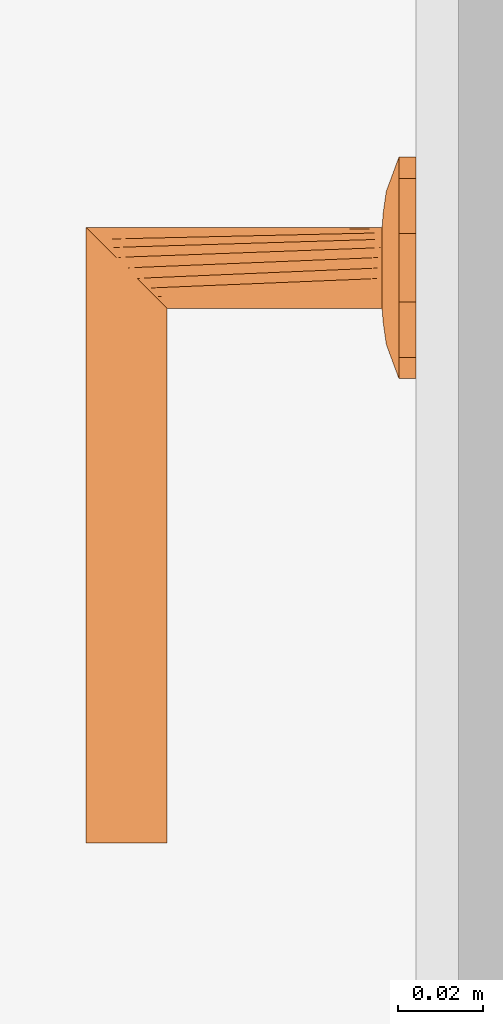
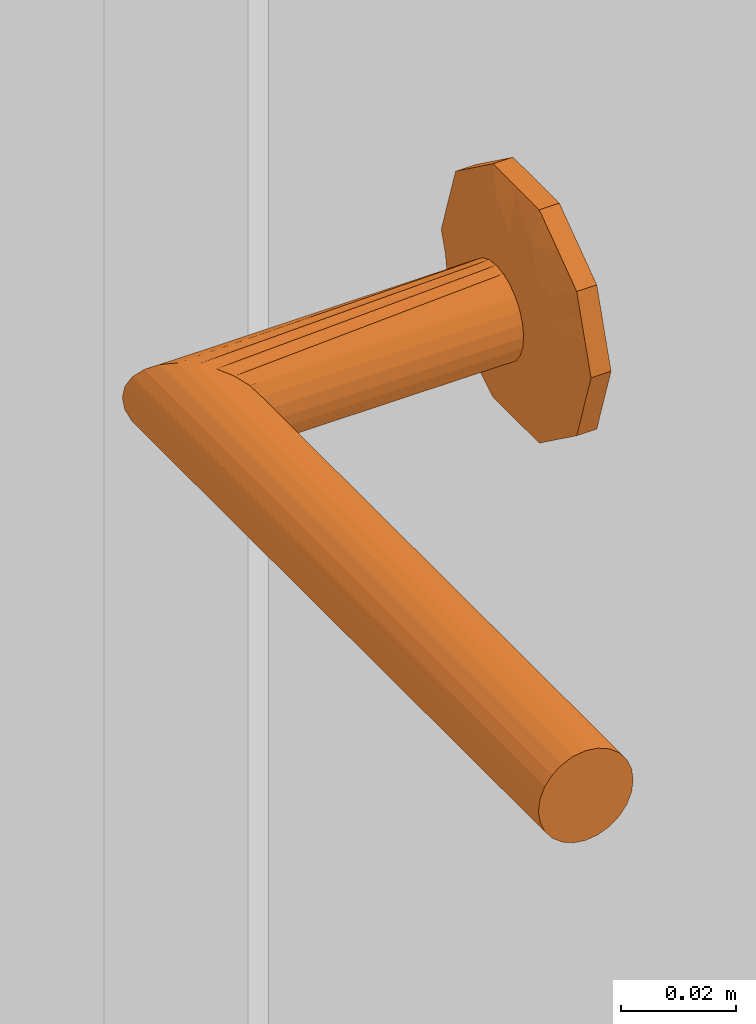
# One storey, part 58 of 68: 1 proxy.
"""IFC2X3 building model written with IfcOpenShell, lengths in millimetres."""

from ifc_helpers import new_model, entity, si_unit, converted_unit, direction, frame, origin, place, context, subcontext, project, spatial, faceted_brep, source, transform, mapped, material, type_object, type_shapes, element, save


model = new_model("IFC2X3")

# Units and contexts
model_context = context("Model", 3, precision=0.01, world=origin(), true_north=direction((6.123233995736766e-17, 1.0)))
plan_context = context("Plan", 3, precision=0.01, world=origin(), true_north=direction((6.123233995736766e-17, 1.0)))
body_context = subcontext(model_context, "Body", "Model", "MODEL_VIEW")
ifc_project = project(units=[si_unit("LENGTHUNIT", "METRE", prefix="MILLI"), converted_unit("PLANEANGLEUNIT", "DEGREE", entity("IfcPlaneAngleMeasure", 0.017453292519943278), si_unit("PLANEANGLEUNIT", "RADIAN"), dimensions=[0, 0, 0, 0, 0, 0, 0]), si_unit("AREAUNIT", "SQUARE_METRE")], contexts=[model_context, plan_context])

# Site, building, storey, space
site_placement = place(None, origin())
site = spatial("IfcSite", under=ifc_project, at=site_placement, Name="Default", CompositionType="ELEMENT")
building_placement = place(site_placement, origin())
building = spatial("IfcBuilding", under=site, at=building_placement, CompositionType="ELEMENT")
storey_placement = place(building_placement, frame((0.0, 0.0, 6295.0)))
storey = spatial("IfcBuildingStorey", under=building, at=storey_placement, Name="3K", CompositionType="ELEMENT", Elevation=6294.999999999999)
space_placement = place(storey_placement, origin())
space = spatial("IfcSpace", under=storey, at=space_placement, Name="3-8.3", CompositionType="ELEMENT", InteriorOrExteriorSpace="INTERNAL")

# Proxy
ifc_material = material(Name="<Unnamed>")
building_element_proxy_type = type_object("IfcBuildingElementProxyType", Name="Door-handle_Lever_ABLOY_INOXI_3-19ss-002_RT:Default", PredefinedType="NOTDEFINED", material=ifc_material)
shared_shape = source(origin(), body_context, "Body", "Brep", [
    faceted_brep([(0.0, 0.0, 0.0), (8.034441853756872, 24.72746942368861, 0.0), (14.534441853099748, 20.00494299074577, 0.0), (21.034441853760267, 15.282416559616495, 0.0), (23.51722092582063, 7.641208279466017, 0.0), (26.0, 0.0, 0.0), (23.517220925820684, -7.641208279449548, 0.0), (0.0, 24.72746942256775, 0.0), (-8.034441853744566, 24.727469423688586, 0.0), (-14.534441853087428, 20.00494299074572, 0.0), (-21.03444185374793, 15.282416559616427, 0.0), (-23.517220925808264, 7.641208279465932, 0.0), (-26.0, 0.0, 0.0), (21.034441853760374, -15.282416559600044, 0.0), (14.534441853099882, -20.004942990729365, 0.0), (8.034441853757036, -24.72746942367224, 0.0), (0.0, -24.72746942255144, 0.0), (-23.517220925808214, -7.641208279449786, 0.0), (-21.034441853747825, -15.282416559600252, 0.0), (-14.53444185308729, -20.004942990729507, 0.0), (-8.0344418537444, -24.72746942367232, 0.0), (0.0, 0.0, 8.0), (9.500000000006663, 0.0, 8.0), (8.312500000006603, 2.056810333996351, 8.0), (7.125000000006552, 4.113620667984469, 8.0), (5.937500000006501, 6.170431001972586, 8.0), (4.7500000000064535, 8.227241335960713, 8.0), (2.375000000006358, 8.2272413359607, 8.0), (0.0, 8.227241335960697, 8.0), (-2.3749999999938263, 8.227241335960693, 8.0), (-4.749999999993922, 8.227241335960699, 8.0), (-5.937499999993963, 6.1704310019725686, 8.0), (-7.124999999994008, 4.1136206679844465, 8.0), (-8.312499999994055, 2.0568103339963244, 8.0), (-9.499999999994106, 0.0, 8.0), (-8.31249999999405, -2.0568103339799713, 8.0), (8.312500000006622, -2.0568103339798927, 8.0), (7.125000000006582, -4.113620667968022, 8.0), (5.937500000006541, -6.170431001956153, 8.0), (4.750000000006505, -8.227241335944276, 8.0), (-7.124999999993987, -4.113620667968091, 8.0), (-5.9374999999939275, -6.17043100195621, 8.0), (-4.74999999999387, -8.227241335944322, 8.0), (-2.374999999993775, -8.227241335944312, 8.0), (0.0, -8.227241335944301, 8.0), (2.3750000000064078, -8.227241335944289, 8.0), (-20.6430713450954, 6.292822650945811, 5.929480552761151), (-16.663919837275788, 7.932665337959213, 6.877259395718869), (-22.48876527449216, 10.806469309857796, 4.030771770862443), (-16.764060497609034, 3.8202578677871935, 7.1747985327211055), (-12.504579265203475, 5.179566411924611, 7.774932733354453), (-11.979136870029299, 13.678312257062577, 6.945778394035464), (-11.963426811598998, 8.62529041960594, 7.618343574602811), (-9.07172672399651, 10.31160661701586, 7.7520782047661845), (8.03444185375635, 24.727469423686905, 4.030771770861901), (0.0, 24.72746942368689, 4.030771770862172), (5.758554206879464, 20.96753300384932, 5.871476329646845), (20.643071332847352, 6.292822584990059, 5.929480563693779), (22.488765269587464, 10.806469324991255, 4.03077177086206), (16.66391982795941, 7.9326653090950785, 6.877259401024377), (9.49943163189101, 18.6436835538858, 6.154325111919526), (14.534441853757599, 20.004942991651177, 4.030771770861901), (-14.534441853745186, 20.00494299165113, 4.030771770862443), (-21.034441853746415, 15.282416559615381, 4.030771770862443), (-15.783149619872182, 11.991003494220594, 6.50080018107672), (-23.943088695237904, 6.330522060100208, 4.030771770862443), (-23.012042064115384, 0.0, 5.135401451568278), (12.50457924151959, 5.179566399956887, 7.774932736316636), (11.963426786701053, 8.625290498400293, 7.618343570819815), (16.76406041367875, 3.820257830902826, 7.17479855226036), (15.783149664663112, 11.991003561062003, 6.50080015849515), (23.01204200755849, 0.0, 5.135401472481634), (17.9853516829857, 0.0, 6.993737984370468), (8.661516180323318, 10.478936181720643, 7.768126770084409), (-3.3573143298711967, 21.197247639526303, 5.971427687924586), (-8.03444185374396, 24.727469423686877, 4.030771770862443), (-7.711266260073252, 12.76034452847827, 7.594456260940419), (-5.97325794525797, 16.43013906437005, 7.110979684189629), (-9.94191586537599, 17.061976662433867, 6.522757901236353), (11.979136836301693, 13.678312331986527, 6.945778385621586), (5.953298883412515, 16.50608604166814, 7.096344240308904), (7.511307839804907, 13.358932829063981, 7.529187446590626), (-1.5654593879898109, 15.307443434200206, 7.519134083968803), (-7.784980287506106, 20.476295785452, 5.812837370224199), (2.8135289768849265, 17.763922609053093, 6.993737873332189), (-17.985351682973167, 0.0, 6.993737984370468), (-26.0, 0.0, 4.030771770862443), (-23.51722092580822, 7.641208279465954, 4.030771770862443), (26.0, 0.0, 4.030771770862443), (24.308823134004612, 5.204907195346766, 4.030771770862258), (23.943088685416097, 6.330522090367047, 4.030771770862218), (21.03444185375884, 15.282416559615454, 4.030771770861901), (22.617646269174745, 10.40981439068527, 4.030771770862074), (20.6430713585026, -6.292822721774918, 5.929480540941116), (16.663919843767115, -7.932665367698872, 6.877259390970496), (22.48876527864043, -10.8064692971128, 4.030771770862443), (16.764060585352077, -3.8202579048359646, 7.174798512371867), (12.504579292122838, -5.17956641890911, 7.774932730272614), (11.979136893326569, -13.678312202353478, 6.9457784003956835), (11.963426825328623, -8.62529034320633, 7.618343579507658), (9.071726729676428, -10.311606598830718, 7.752078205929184), (-8.03444185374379, -24.727469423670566, 4.030771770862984), (0.0, -24.727469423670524, 4.030771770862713), (-5.758554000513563, -20.96753314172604, 5.8714763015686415), (-20.643071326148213, -6.292822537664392, 5.929480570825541), (-22.488765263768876, -10.80646934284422, 4.030771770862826), (-16.66391981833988, -7.932665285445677, 6.877259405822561), (-9.499431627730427, -18.643683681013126, 6.154325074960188), (-14.534441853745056, -20.004942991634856, 4.030771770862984), (14.53444185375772, -20.00494299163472, 4.030771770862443), (21.034441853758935, -15.282416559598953, 4.030771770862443), (15.783149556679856, -11.991003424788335, 6.5008002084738), (23.943088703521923, -6.330522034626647, 4.030771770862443), (-12.504579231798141, -5.17956638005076, 7.77493273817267), (-11.963426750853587, -8.625290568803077, 7.618343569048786), (-16.764060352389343, -3.8202577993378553, 7.174798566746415), (-15.783149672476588, -11.991003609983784, 6.500800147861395), (-8.661516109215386, -10.478936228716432, 7.768126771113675), (3.3573144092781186, -21.197247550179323, 5.971427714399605), (8.034441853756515, -24.727469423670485, 4.030771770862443), (7.711266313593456, -12.760344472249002, 7.5944562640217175), (5.9732581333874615, -16.430139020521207, 7.110979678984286), (9.941915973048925, -17.06197655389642, 6.522757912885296), (-11.979136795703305, -13.678312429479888, 6.945778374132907), (-5.953298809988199, -16.506086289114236, 7.096344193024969), (-7.511307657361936, -13.358932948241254, 7.5291874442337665), (1.5654596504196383, -15.3074431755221, 7.519134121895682), (7.784980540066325, -20.476295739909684, 5.812837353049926), (-2.81352881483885, -17.76392263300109, 6.993737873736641), (23.517220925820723, -7.64120827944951, 4.030771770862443), (-24.308823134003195, -5.20490719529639, 4.030771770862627), (-23.943088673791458, -6.330522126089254, 4.030771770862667), (-21.034441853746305, -15.282416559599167, 4.030771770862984), (-22.617646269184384, -10.409814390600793, 4.0307717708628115)], [[[0, 1, 2]], [[0, 2, 3]], [[0, 3, 4]], [[0, 4, 5]], [[0, 5, 6]], [[0, 7, 1]], [[0, 8, 7]], [[0, 9, 8]], [[0, 10, 9]], [[0, 11, 10]], [[0, 12, 11]], [[0, 6, 13]], [[0, 13, 14]], [[0, 14, 15]], [[0, 15, 16]], [[0, 17, 12]], [[0, 18, 17]], [[0, 19, 18]], [[0, 20, 19]], [[0, 16, 20]], [[21, 22, 23]], [[21, 23, 24]], [[21, 24, 25]], [[21, 25, 26]], [[21, 26, 27]], [[21, 27, 28]], [[21, 28, 29]], [[21, 29, 30]], [[21, 30, 31]], [[21, 31, 32]], [[21, 32, 33]], [[21, 33, 34]], [[21, 34, 35]], [[21, 36, 22]], [[21, 37, 36]], [[21, 38, 37]], [[21, 39, 38]], [[21, 35, 40]], [[21, 40, 41]], [[21, 41, 42]], [[21, 42, 43]], [[21, 43, 44]], [[21, 44, 45]], [[21, 45, 39]], [[46, 47, 48]], [[49, 50, 47]], [[33, 32, 50]], [[51, 52, 53]], [[32, 52, 50]], [[49, 47, 46]], [[54, 55, 56]], [[57, 58, 59]], [[60, 61, 54]], [[62, 63, 64]], [[46, 65, 66]], [[67, 59, 68]], [[23, 69, 67]], [[70, 68, 59]], [[23, 22, 69]], [[52, 51, 64]], [[71, 69, 72]], [[73, 25, 68]], [[74, 55, 75]], [[76, 77, 78]], [[70, 61, 79]], [[71, 57, 69]], [[60, 80, 81]], [[51, 76, 78]], [[77, 29, 82]], [[26, 81, 27]], [[74, 83, 77]], [[77, 82, 74]], [[74, 84, 55]], [[34, 49, 85]], [[23, 67, 24]], [[28, 84, 82]], [[74, 82, 84]], [[29, 76, 30]], [[29, 28, 82]], [[49, 34, 33]], [[47, 50, 52]], [[47, 52, 64]], [[50, 49, 33]], [[53, 76, 51]], [[52, 32, 31]], [[49, 66, 85]], [[86, 66, 65]], [[24, 67, 68]], [[83, 78, 77]], [[49, 46, 66]], [[48, 64, 63]], [[46, 48, 87, 65]], [[48, 47, 64]], [[59, 67, 69]], [[26, 73, 81]], [[79, 68, 70]], [[25, 24, 68]], [[71, 88, 89, 90]], [[22, 72, 69]], [[59, 69, 57]], [[79, 61, 60]], [[51, 62, 64]], [[70, 58, 91]], [[90, 57, 71]], [[58, 70, 59]], [[57, 90, 92]], [[79, 60, 81]], [[61, 70, 91]], [[56, 80, 60]], [[79, 81, 73]], [[80, 84, 27]], [[79, 73, 68]], [[27, 84, 28]], [[25, 73, 26]], [[77, 76, 29]], [[31, 30, 53]], [[78, 62, 51]], [[75, 62, 83]], [[78, 83, 62]], [[75, 83, 74]], [[76, 53, 30]], [[31, 53, 52]], [[81, 80, 27]], [[84, 80, 56]], [[84, 56, 55]], [[54, 56, 60]], [[93, 94, 95]], [[96, 97, 94]], [[36, 37, 97]], [[98, 99, 100]], [[37, 99, 97]], [[96, 94, 93]], [[101, 102, 103]], [[104, 105, 106]], [[107, 108, 101]], [[109, 110, 111]], [[93, 112, 71]], [[113, 106, 114]], [[35, 115, 113]], [[116, 114, 106]], [[35, 34, 115]], [[99, 98, 111]], [[66, 115, 85]], [[117, 41, 114]], [[118, 102, 119]], [[120, 121, 122]], [[116, 108, 123]], [[66, 104, 115]], [[107, 124, 125]], [[120, 45, 121]], [[121, 45, 126]], [[42, 125, 43]], [[118, 127, 121]], [[121, 126, 118]], [[118, 128, 102]], [[22, 96, 72]], [[35, 113, 40]], [[44, 128, 126]], [[118, 126, 128]], [[45, 120, 39]], [[45, 44, 126]], [[96, 22, 36]], [[94, 97, 99]], [[94, 99, 111]], [[97, 96, 36]], [[100, 120, 98]], [[99, 37, 38]], [[96, 71, 72]], [[88, 71, 112]], [[40, 113, 114]], [[127, 122, 121]], [[96, 93, 71]], [[95, 111, 110]], [[93, 95, 129, 112]], [[95, 94, 111]], [[106, 113, 115]], [[42, 117, 125]], [[123, 114, 116]], [[41, 40, 114]], [[66, 86, 130, 131]], [[34, 85, 115]], [[106, 115, 104]], [[123, 108, 107]], [[98, 109, 111]], [[116, 105, 132]], [[131, 104, 66]], [[105, 116, 106]], [[104, 131, 133]], [[123, 107, 125]], [[108, 116, 132]], [[103, 124, 107]], [[123, 125, 117]], [[124, 128, 43]], [[123, 117, 114]], [[43, 128, 44]], [[41, 117, 42]], [[38, 39, 100]], [[98, 120, 122]], [[122, 109, 98]], [[119, 109, 127]], [[122, 127, 109]], [[119, 127, 118]], [[120, 100, 39]], [[38, 100, 99]], [[125, 124, 43]], [[128, 124, 103]], [[128, 103, 102]], [[101, 103, 107]], [[9, 10, 63, 62, 75, 8]], [[11, 12, 86, 65, 87, 48, 63, 10]], [[4, 3, 92, 90, 89, 88, 5]], [[3, 91, 58]], [[55, 54, 1, 7, 8, 75]], [[3, 2, 1, 54, 61, 91]], [[13, 6, 5, 88, 112, 129, 95, 110]], [[119, 15, 14, 13, 110, 109]], [[17, 18, 133, 131, 130, 86, 12]], [[18, 132, 105]], [[102, 101, 20, 16, 15, 119]], [[18, 19, 20, 101, 108, 132]], [[57, 92, 58]], [[104, 133, 105]], [[3, 58, 92]], [[18, 105, 133]]]),
    faceted_brep([(0.0, 9.499999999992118, 8.0), (2.4587809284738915, 9.176295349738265, 8.0), (4.7499999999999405, 8.22724133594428, 8.0), (6.717514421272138, 6.7175144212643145, 8.0), (8.227241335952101, 4.749999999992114, 8.0), (9.17629534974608, 2.458780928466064, 8.0), (9.499999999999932, 0.0, 8.0), (9.17629534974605, -2.458780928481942, 8.0), (8.22724133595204, -4.75000000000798, 8.0), (6.717514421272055, -6.717514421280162, 8.0), (4.7499999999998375, -8.227241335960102, 8.0), (2.4587809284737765, -9.176295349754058, 8.0), (0.0, -9.500000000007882, 8.0), (-2.4587809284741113, -9.176295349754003, 8.0), (-4.750000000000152, -8.227241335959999, 8.0), (-6.717514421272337, -6.717514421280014, 8.0), (-8.227241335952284, -4.750000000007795, 8.0), (-9.176295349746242, -2.458780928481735, 8.0), (-9.500000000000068, 0.0, 8.0), (-9.176295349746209, 2.4587809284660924, 8.0), (-8.227241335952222, 4.74999999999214, 8.0), (-6.717514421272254, 6.717514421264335, 8.0), (-4.7500000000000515, 8.227241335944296, 8.0), (-2.4587809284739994, 9.176295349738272, 8.0), (-6.717514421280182, -6.7175144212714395, 61.282485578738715), (-8.227241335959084, -4.7499999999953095, 59.772758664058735), (-9.176295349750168, -2.458780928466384, 58.82370465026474), (-2.4587809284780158, -9.176295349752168, 65.54121907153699), (-4.750000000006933, -8.227241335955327, 63.25000000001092), (-9.500000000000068, 0.0, 58.50000000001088), (0.0, -9.50000000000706, 68.0), (2.4587809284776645, -9.17629534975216, 70.45878092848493), (4.750000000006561, -8.227241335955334, 72.75000000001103), (6.717514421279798, -6.7175144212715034, 74.71751442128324), (9.17629534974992, -2.458780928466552, 77.17629534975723), (8.22724133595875, -4.749999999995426, 76.22724133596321), (9.499999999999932, 0.0, 77.50000000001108), (9.176295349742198, 2.4587809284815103, 77.1762953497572), (8.227241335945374, 4.750000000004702, 76.22724133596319), (4.749999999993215, 8.227241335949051, 72.75000000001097), (6.7175144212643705, 6.717514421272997, 74.7175144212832), (2.4587809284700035, 9.17629534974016, 70.45878092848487), (-2.4587809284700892, 9.176295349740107, 65.54121907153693), (0.0, 9.49999999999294, 68.0), (-6.717514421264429, 6.717514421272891, 61.282485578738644), (-4.749999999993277, 8.227241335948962, 63.250000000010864), (-9.176295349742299, 2.458780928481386, 58.8237046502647), (-8.227241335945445, 4.750000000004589, 59.77275866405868), (-135.0, 9.500000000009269, 68.0), (-135.0, 9.176295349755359, 65.54121907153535), (-135.0, 8.227241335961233, 63.25000000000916), (-135.0, 6.7175144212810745, 61.28248557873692), (-135.0, 4.750000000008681, 59.772758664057), (-135.0, 2.458780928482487, 58.82370465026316), (-135.0, 0.0, 58.50000000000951), (-135.0, -2.458780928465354, 58.823704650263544), (-135.0, -4.749999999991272, 59.772758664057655), (-135.0, -6.717514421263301, 61.28248557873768), (-135.0, -8.227241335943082, 63.250000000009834), (-135.0, -9.17629534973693, 65.54121907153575), (-135.0, -9.499999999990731, 68.0), (-135.0, -9.17629534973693, 70.45878092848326), (-135.0, -8.227241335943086, 72.75000000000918), (-135.0, -6.717514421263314, 74.71751442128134), (-135.0, -4.749999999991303, 76.22724133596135), (-135.0, -2.4587809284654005, 77.17629534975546), (-135.0, 0.0, 77.5000000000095), (-135.0, 2.4587809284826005, 77.17629534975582), (-135.0, 4.750000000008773, 76.22724133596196), (-135.0, 6.717514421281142, 74.71751442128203), (-135.0, 8.227241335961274, 72.75000000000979), (-135.0, 9.176295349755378, 70.4587809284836)], [[[0, 1, 2, 3, 4, 5, 6, 7, 8, 9, 10, 11, 12, 13, 14, 15, 16, 17, 18, 19, 20, 21, 22, 23]], [[15, 24, 25, 16]], [[16, 25, 26, 17]], [[27, 28, 12]], [[12, 28, 13]], [[13, 28, 24]], [[18, 17, 26, 29]], [[24, 15, 14]], [[14, 13, 24]], [[11, 30, 27]], [[31, 9, 32]], [[32, 8, 33]], [[34, 35, 7]], [[7, 35, 33]], [[36, 34, 7, 6]], [[30, 11, 10]], [[11, 27, 12]], [[33, 8, 7]], [[8, 32, 9]], [[31, 10, 9]], [[10, 31, 30]], [[37, 36, 6, 5]], [[37, 5, 38]], [[39, 40, 4]], [[5, 40, 38]], [[41, 39, 3]], [[5, 4, 40]], [[42, 43, 1]], [[2, 1, 43]], [[2, 41, 3]], [[39, 4, 3]], [[2, 43, 41]], [[23, 44, 45]], [[0, 45, 42]], [[19, 18, 29, 46]], [[20, 19, 46, 47]], [[21, 20, 47, 44]], [[23, 22, 44]], [[45, 0, 23]], [[44, 22, 21]], [[1, 0, 42]], [[48, 49, 50, 51, 52, 53, 54, 55, 56, 57, 58, 59, 60, 61, 62, 63, 64, 65, 66, 67, 68, 69, 70, 71]], [[26, 25, 56, 55]], [[29, 26, 55, 54]], [[28, 27, 59, 58]], [[24, 28, 58, 57]], [[25, 24, 57, 56]], [[27, 30, 60, 59]], [[32, 33, 63, 62]], [[31, 32, 62, 61]], [[34, 36, 66, 65]], [[35, 34, 65, 64]], [[33, 35, 64, 63]], [[61, 60, 30, 31]], [[38, 68, 67, 37]], [[37, 67, 66, 36]], [[41, 71, 70, 39]], [[39, 70, 69, 40]], [[40, 69, 68, 38]], [[48, 71, 41, 43]], [[44, 51, 50, 45]], [[45, 50, 49, 42]], [[29, 54, 53, 46]], [[46, 53, 52, 47]], [[47, 52, 51, 44]], [[42, 49, 48, 43]]]),
])
type_shapes(building_element_proxy_type, [shared_shape])
proxy_placement = place(space_placement, frame((13478.0, 3149.9999594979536, 1000.0), z_axis=(-1.0, 0.0, 0.0), x_axis=(0.0, 1.0, 0.0)))
element("IfcBuildingElementProxy", 1, at=proxy_placement, inside=space, type_object=building_element_proxy_type, material=ifc_material, Name="Door-handle_Lever_ABLOY_INOXI_3-19ss-002_RT:Default", ObjectType="Door-handle_Lever_ABLOY_INOXI_3-19ss-002_RT:Default", context=body_context, shape_type="MappedRepresentation", body=[
    mapped(shared_shape, transform((0.0, 0.0, 0.0), scale=1.0)),
])

save(model, "model.ifc")
